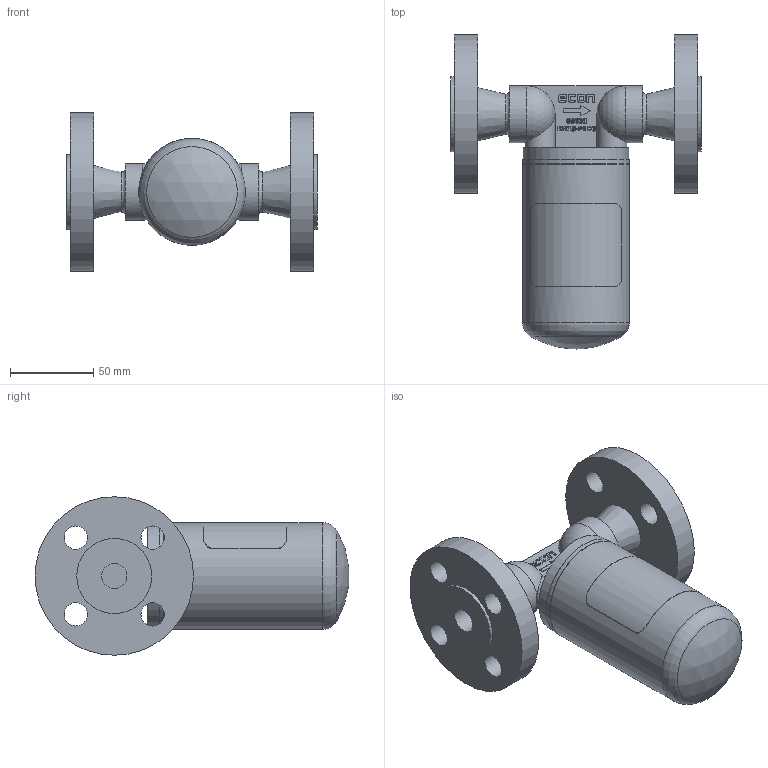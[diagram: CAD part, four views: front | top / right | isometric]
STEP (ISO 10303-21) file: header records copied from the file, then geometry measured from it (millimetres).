
FILE_DESCRIPTION(/* description */ (''),/* implementation_level */ '2;1');
FILE_NAME(/* name */ '8963EL-MAX_DP28-DN15-PN40.stp',/* time_stamp */ '2024-07-17T09:09:29+02:00',/* author */ ('roger.thijssen'),/* organization */ (''),/* preprocessor_version */ 'ST-DEVELOPER v20',/* originating_system */ 'Autodesk Inventor 2024',/* authorisation */ '');
FILE_SCHEMA (('AUTOMOTIVE_DESIGN { 1 0 10303 214 3 1 1 }'));
Length unit declared in the file: millimetre
Products named in the file (1): 8963E-DN15-PN40
Bounding box: 150 x 188.18 x 95 mm (x, y, z)
Volume: 312428 mm3; surface area: 106056.8 mm2
Topology: 1 solids, 2 shells, 380 faces, 998 edges, 655 vertices
Faces by surface type: plane 193, bspline 128, cylinder 46, sphere 6, torus 4, cone 3
Full cylindrical faces by diameter (mm): 14 x8, 15 x2, 34 x2, 45 x2, 62 x1, 63 x1, 64 x2, 95 x2
Entity records: 12874 total; most frequent: CARTESIAN_POINT 4242, ORIENTED_EDGE 1988, DIRECTION 1331, EDGE_CURVE 994, VERTEX_POINT 655, LINE 619, VECTOR 619, EDGE_LOOP 437
